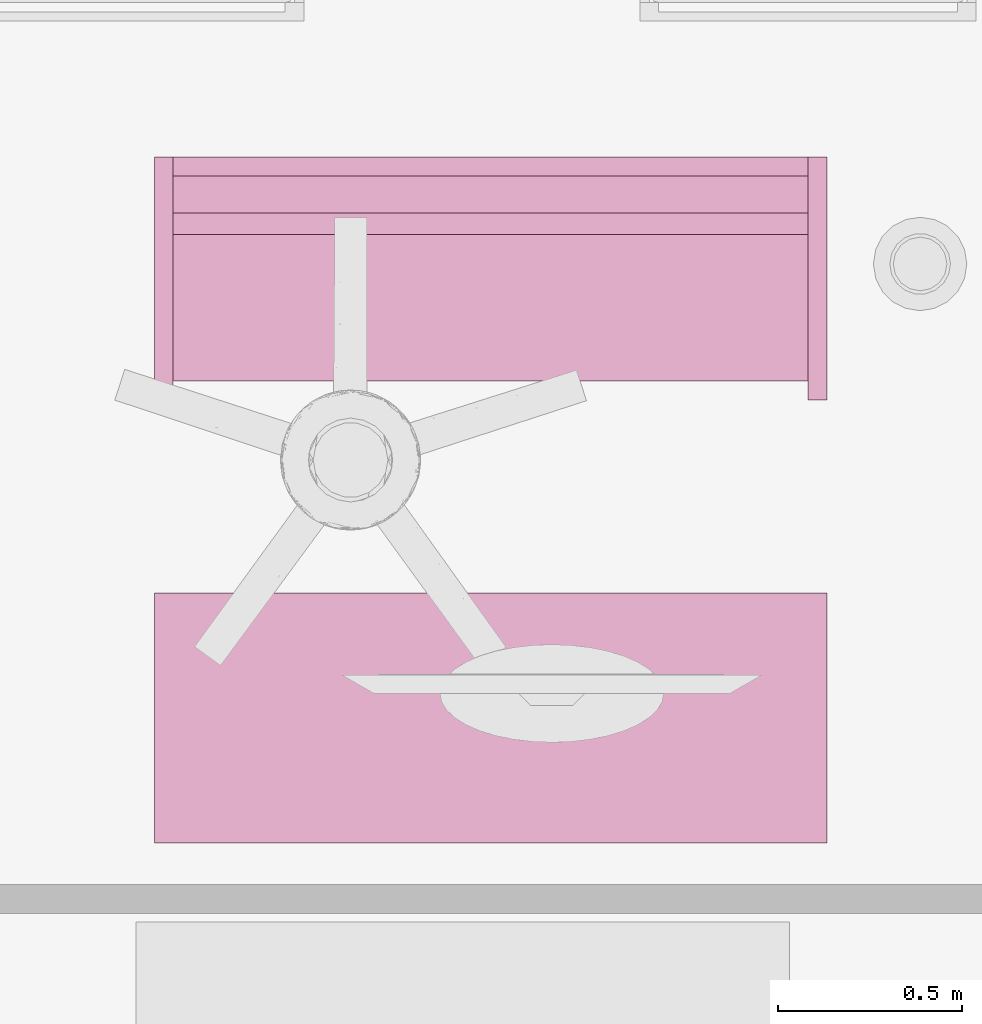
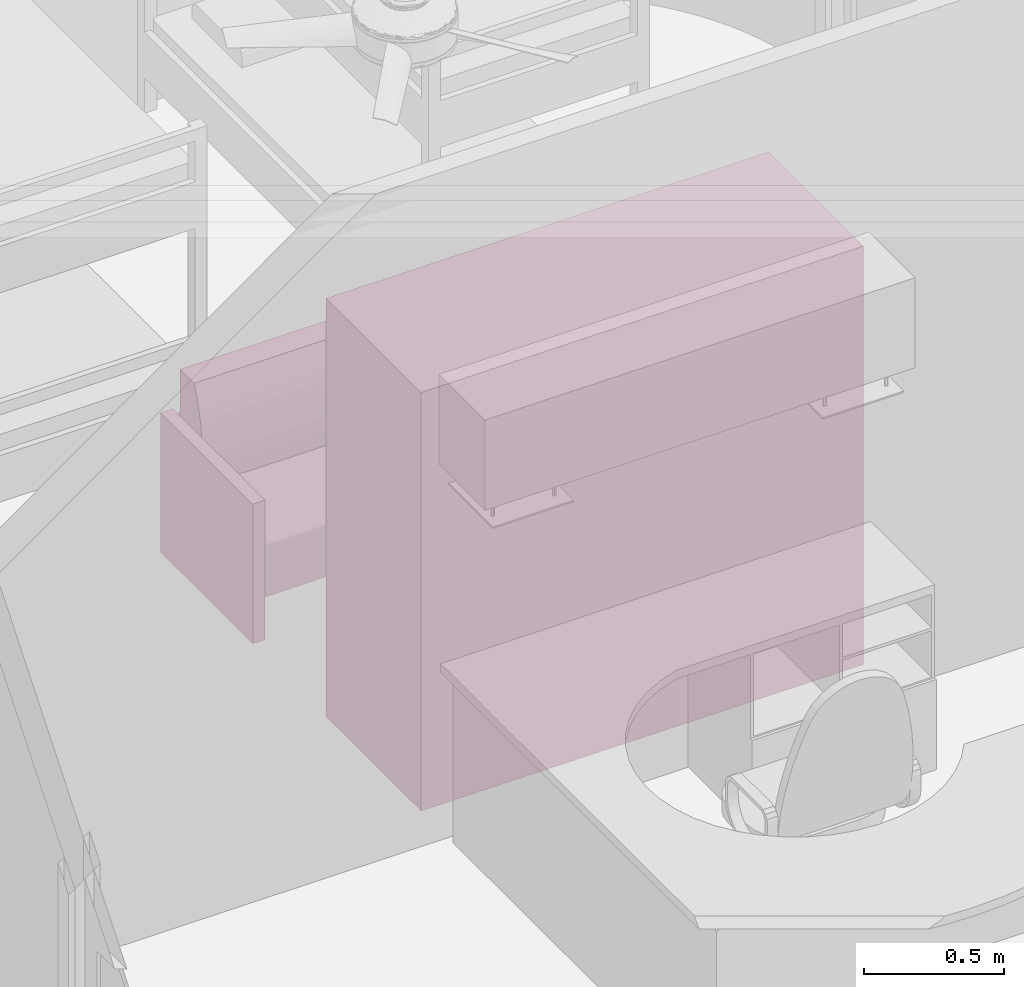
# One storey, part 25 of 28: 2 furnishings.
"""IFC2X3 building model written with IfcOpenShell, lengths in feet."""

import ifcopenshell
import ifcopenshell.guid

model = None  # the IFC model being written
_history = None  # IfcOwnerHistory: only IFC2X3 demands one
_inside = {}  # id of a spatial element -> (the spatial element, [elements in it])
_under = {}  # id of a project, library or spatial element -> (it, [spatial elements below it])
_declared = {}  # id of a project -> (the project, [libraries it declares])
_typed = {}  # id of a type object -> (the type object, [elements of that type])
_made_of = {}  # id of a material, layer set ... -> (it, [elements and type objects made of it])


def new_model(schema):
    """Start an empty IFC model of exactly this schema.

    Asked for "IFC4X3", IfcOpenShell would pick the latest addendum, in which some entities
    have other attributes; the version numbers below select the first issue.
    IFC2X3 requires an IfcOwnerHistory on every rooted entity: one is made here for all.
    """
    global model, _history
    if schema == "IFC4X3":
        model = ifcopenshell.file(schema_version=(4, 3, 0, 0))
    else:
        model = ifcopenshell.file(schema=schema)
    _inside.clear()
    _under.clear()
    _declared.clear()
    _typed.clear()
    _made_of.clear()
    _history = None
    if model.schema == "IFC2X3":
        org = make("IfcOrganization", Name="unknown")
        user = make(
            "IfcPersonAndOrganization",
            ThePerson=make("IfcPerson", FamilyName="unknown"),
            TheOrganization=org,
        )
        app = make(
            "IfcApplication",
            ApplicationDeveloper=org,
            Version="unknown",
            ApplicationFullName="unknown",
            ApplicationIdentifier="unknown",
        )
        _history = make(
            "IfcOwnerHistory",
            OwningUser=user,
            OwningApplication=app,
            ChangeAction="ADDED",
            CreationDate=0,
        )
    return model


def make(cls, **values):
    """One entity of the class cls with the attributes given. An attribute that is None is left unset."""
    return model.create_entity(
        cls, **{name: value for name, value in values.items() if value is not None}
    )


def entity(cls, *values):
    """Any entity or typed value of the class cls, its attributes in the order of the schema. None: left unset."""
    e = model.create_entity(cls)
    for i, value in enumerate(values):
        if value is not None:
            e[i] = value
    return e


def rooted(cls, **values):
    """An entity with a GlobalId (a new one), such as an element, a storey or a relation."""
    return make(cls, GlobalId=ifcopenshell.guid.new(), OwnerHistory=_history, **values)


def si_unit(unit_type, name, prefix=None):
    """IfcSIUnit, for example si_unit("LENGTHUNIT", "METRE", prefix="MILLI")."""
    return make("IfcSIUnit", UnitType=unit_type, Prefix=prefix, Name=name)


def converted_unit(unit_type, name, factor, base, dimensions=None, offset=None):
    """IfcConversionBasedUnit, such as the inch: factor (a typed value) times the base unit."""
    return make(
        "IfcConversionBasedUnit"
        if offset is None
        else "IfcConversionBasedUnitWithOffset",
        ConversionOffset=offset,
        Dimensions=None
        if dimensions is None
        else entity("IfcDimensionalExponents", *dimensions),
        UnitType=unit_type,
        Name=name,
        ConversionFactor=make(
            "IfcMeasureWithUnit", ValueComponent=factor, UnitComponent=base
        ),
    )


def derived_unit(unit_type, elements):
    """IfcDerivedUnit: a product of units, each with its exponent."""
    return make(
        "IfcDerivedUnit",
        Elements=[
            make("IfcDerivedUnitElement", Unit=unit, Exponent=power)
            for unit, power in elements
        ],
        UnitType=unit_type,
    )


def assignment(units):
    """IfcUnitAssignment: the units of a project."""
    return None if units is None else make("IfcUnitAssignment", Units=units)


def point(xyz):
    """IfcCartesianPoint."""
    return None if xyz is None else make("IfcCartesianPoint", Coordinates=xyz)


def direction(xyz):
    """IfcDirection."""
    return None if xyz is None else make("IfcDirection", DirectionRatios=xyz)


def frame(location, z_axis=None, x_axis=None):
    """IfcAxis2Placement3D, a coordinate frame: its origin and axes. An axis left out is left unset."""
    return make(
        "IfcAxis2Placement3D",
        Location=point(location),
        Axis=direction(z_axis),
        RefDirection=direction(x_axis),
    )


def frame_2d(location, x_axis=None):
    """IfcAxis2Placement2D, a coordinate frame in the plane: its origin and x axis."""
    return make(
        "IfcAxis2Placement2D", Location=point(location), RefDirection=direction(x_axis)
    )


def origin():
    """The frame at (0, 0, 0) with its axes left unset."""
    return frame((0.0, 0.0, 0.0))


def origin_2d_with_axis():
    """The frame at (0, 0) in the plane with the x axis (1, 0) written out."""
    return frame_2d((0.0, 0.0), x_axis=(1.0, 0.0))


def place(relative_to, where):
    """IfcLocalPlacement: puts the frame where relative to a parent placement (None: the world)."""
    return make(
        "IfcLocalPlacement", PlacementRelTo=relative_to, RelativePlacement=where
    )


def context(
    kind, dimensions, precision=None, world=None, true_north=None, identifier=None
):
    """IfcGeometricRepresentationContext, for example the 3D "Model" context."""
    return make(
        "IfcGeometricRepresentationContext",
        ContextIdentifier=identifier,
        ContextType=kind,
        CoordinateSpaceDimension=dimensions,
        Precision=precision,
        WorldCoordinateSystem=world,
        TrueNorth=true_north,
    )


def subcontext(parent, identifier, kind, view, scale=None):
    """IfcGeometricRepresentationSubContext, for example "Body" below "Model"."""
    return make(
        "IfcGeometricRepresentationSubContext",
        ContextIdentifier=identifier,
        ContextType=kind,
        ParentContext=parent,
        TargetScale=scale,
        TargetView=view,
    )


def project(units=None, contexts=None):
    """IfcProject with its units and contexts."""
    return rooted(
        "IfcProject",
        Name="project",
        RepresentationContexts=contexts,
        UnitsInContext=assignment(units),
    )


def spatial(cls, under=None, at=None, **own):
    """A site, building, storey or space (cls), placed at a placement, below another one or the project."""
    s = rooted(cls, ObjectPlacement=at, **own)
    if under is not None:
        _under.setdefault(under.id(), (under, []))[1].append(s)
    return s


def polyline(points):
    """IfcPolyline through the points."""
    return make("IfcPolyline", Points=[point(p) for p in points])


def circle_curve(where, radius):
    """IfcCircle in the frame where."""
    return make("IfcCircle", Position=where, Radius=radius)


def parameter(value):
    """IfcParameterValue: where a trimmed curve begins or ends, as a parameter of its basis curve."""
    return model.create_entity("IfcParameterValue", value)


def trimmed(basis, trim1, trim2, sense, master):
    """IfcTrimmedCurve: the piece of a basis curve between two trims."""
    return make(
        "IfcTrimmedCurve",
        BasisCurve=basis,
        Trim1=trim1,
        Trim2=trim2,
        SenseAgreement=sense,
        MasterRepresentation=master,
    )


def segment(curve, same_sense, transition):
    """IfcCompositeCurveSegment."""
    return make(
        "IfcCompositeCurveSegment",
        Transition=transition,
        SameSense=same_sense,
        ParentCurve=curve,
    )


def composite_curve(segments, self_intersect=None):
    """IfcCompositeCurve: segments joined end to end."""
    return make("IfcCompositeCurve", Segments=segments, SelfIntersect=self_intersect)


def profile(cls, at=None, kind="AREA", **sizes):
    """A parametric profile (cls). Its sizes go by their IFC names, for example OverallWidth=200.0."""
    return make(cls, ProfileType=kind, Position=at, **sizes)


def rectangle(**sizes):
    """IfcRectangleProfileDef."""
    return profile("IfcRectangleProfileDef", **sizes)


def outline(outer, holes=None, kind="AREA"):
    """IfcArbitraryClosedProfileDef: a profile drawn as a closed curve; with holes, ...WithVoids."""
    if holes is None:
        return make("IfcArbitraryClosedProfileDef", ProfileType=kind, OuterCurve=outer)
    return make(
        "IfcArbitraryProfileDefWithVoids",
        ProfileType=kind,
        OuterCurve=outer,
        InnerCurves=holes,
    )


def extrude(swept, where, along, depth):
    """IfcExtrudedAreaSolid: the profile swept, set in the frame where, extruded along a direction by depth."""
    return make(
        "IfcExtrudedAreaSolid",
        SweptArea=swept,
        Position=where,
        ExtrudedDirection=direction(along),
        Depth=depth,
    )


def faces_of(points, faces, orient=None, outer=None):
    """IfcFace entities. A face is a list of loops; a loop is a list of indices into points, from 0.

    orient and outer hold one flag for each loop. By default every Orientation is true, the
    first loop of a face is its IfcFaceOuterBound and the others are IfcFaceBound.
    """
    made = []
    for i, loops in enumerate(faces):
        bounds = []
        for j, loop in enumerate(loops):
            is_outer = j == 0 if outer is None else outer[i][j]
            bounds.append(
                make(
                    "IfcFaceOuterBound" if is_outer else "IfcFaceBound",
                    Bound=make("IfcPolyLoop", Polygon=[points[k] for k in loop]),
                    Orientation=True if orient is None else orient[i][j],
                )
            )
        made.append(make("IfcFace", Bounds=bounds))
    return made


def faceted_brep(points, faces, orient=None, outer=None, voids=None):
    """IfcFacetedBrep: a solid bounded by flat faces; with voids (closed shells), ...WithVoids."""
    shared = [point(p) for p in points]
    hull = make("IfcClosedShell", CfsFaces=faces_of(shared, faces, orient, outer))
    if voids is None:
        return make("IfcFacetedBrep", Outer=hull)
    return make(
        "IfcFacetedBrepWithVoids",
        Outer=hull,
        Voids=[
            make(cls, CfsFaces=faces_of(shared, fs, o, b)) for cls, fs, o, b in voids
        ],
    )


def shape(context_of_items, identifier, shape_type, items):
    """IfcShapeRepresentation: the items that make up one representation, for example the "Body"."""
    return make(
        "IfcShapeRepresentation",
        ContextOfItems=context_of_items,
        RepresentationIdentifier=identifier,
        RepresentationType=shape_type,
        Items=items,
    )


def source(mapping_origin, context_of_items, identifier, shape_type, items):
    """IfcRepresentationMap: a shape defined once, which mapped items show again and again."""
    return make(
        "IfcRepresentationMap",
        MappingOrigin=mapping_origin,
        MappedRepresentation=shape(context_of_items, identifier, shape_type, items),
    )


def transform(
    local_origin,
    x_axis=None,
    y_axis=None,
    z_axis=None,
    scale=None,
    scale2=None,
    scale3=None,
    uniform=True,
):
    """IfcCartesianTransformationOperator3D, or its non-uniform kind. x_axis, y_axis, z_axis: its Axis1, 2, 3."""
    if uniform:
        return make(
            "IfcCartesianTransformationOperator3D",
            Axis1=direction(x_axis),
            Axis2=direction(y_axis),
            LocalOrigin=point(local_origin),
            Scale=scale,
            Axis3=direction(z_axis),
        )
    return make(
        "IfcCartesianTransformationOperator3DnonUniform",
        Axis1=direction(x_axis),
        Axis2=direction(y_axis),
        LocalOrigin=point(local_origin),
        Scale=scale,
        Axis3=direction(z_axis),
        Scale2=scale2,
        Scale3=scale3,
    )


def mapped(mapping_source, mapping_target):
    """IfcMappedItem: shows the shape of a source again, moved by a transform."""
    return make(
        "IfcMappedItem", MappingSource=mapping_source, MappingTarget=mapping_target
    )


def material(Name=None, Category=None):
    """IfcMaterial."""
    return make("IfcMaterial", Name=Name, Category=Category)


def material_list(materials):
    """IfcMaterialList."""
    return make("IfcMaterialList", Materials=materials)


def made_of(thing, what):
    """Note that an element or type object is made of a material, layer set ...; save() writes the relation."""
    if what is not None:
        _made_of.setdefault(what.id(), (what, []))[1].append(thing)
    return thing


def type_object(cls, material=None, **own):
    """A type object (cls), such as IfcWallType, which elements share."""
    return made_of(rooted(cls, **own), material)


def type_shapes(of_type, sources):
    """Give a type object the sources (RepresentationMaps) that its elements show as mapped items."""
    of_type.RepresentationMaps = sources


def element(
    cls,
    number,
    at=None,
    inside=None,
    cuts=None,
    type_object=None,
    material=None,
    context=None,
    identifier="Body",
    shape_type=None,
    held_by="IfcProductDefinitionShape",
    body=None,
    shapes=None,
    **own,
):
    """One element of the class cls, such as IfcWall. Its Tag is "e" and its number.

    at: its placement. inside: the storey or other place that contains it. cuts: it is an
    opening in that element (IfcRelVoidsElement). A single representation is given by context,
    identifier, shape_type and body (its items); several are given by shapes. held_by: the class
    of the entity that holds the representations. save() writes the other relations.
    """
    e = rooted(cls, Tag="e%d" % number, ObjectPlacement=at, **own)
    if body is not None:
        shapes = [shape(context, identifier, shape_type, body)]
    if shapes is not None:
        e.Representation = make(held_by, Representations=shapes)
    if inside is not None:
        _inside.setdefault(inside.id(), (inside, []))[1].append(e)
    if cuts is not None:
        rooted(
            "IfcRelVoidsElement", RelatingBuildingElement=cuts, RelatedOpeningElement=e
        )
    if type_object is not None:
        _typed.setdefault(type_object.id(), (type_object, []))[1].append(e)
    return made_of(e, material)


def aggregate(whole, parts):
    """IfcRelAggregates: a whole, such as a stair, and the parts it consists of."""
    return rooted("IfcRelAggregates", RelatingObject=whole, RelatedObjects=parts)


def save(model, path):
    """Write the relations noted so far, then the file.

    IfcRelAggregates (storeys below a building ...), IfcRelContainedInSpatialStructure (elements
    in a storey), IfcRelDefinesByType, IfcRelAssociatesMaterial and IfcRelDeclares: one each for
    every whole, place, type object, material and project.
    """
    for whole, parts in _under.values():
        aggregate(whole, parts)
    for where, things in _inside.values():
        rooted(
            "IfcRelContainedInSpatialStructure",
            RelatedElements=things,
            RelatingStructure=where,
        )
    for kind, things in _typed.values():
        rooted("IfcRelDefinesByType", RelatedObjects=things, RelatingType=kind)
    for what, things in _made_of.values():
        rooted("IfcRelAssociatesMaterial", RelatedObjects=things, RelatingMaterial=what)
    for by, libraries in _declared.values():
        rooted("IfcRelDeclares", RelatingContext=by, RelatedDefinitions=libraries)
    model.write(path)


model = new_model("IFC2X3")

# Units and contexts
model_context = context("Model", 3, precision=0.0001, world=origin(), true_north=direction((6.12303176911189e-17, 1.0)))
body_context = subcontext(model_context, "Body", "Model", "MODEL_VIEW")
ifc_project = project(units=[converted_unit("LENGTHUNIT", "FOOT", entity("IfcRatioMeasure", 0.3048), si_unit("LENGTHUNIT", "METRE"), dimensions=[1, 0, 0, 0, 0, 0, 0]), converted_unit("AREAUNIT", "SQUARE FOOT", entity("IfcRatioMeasure", 0.09290304), si_unit("AREAUNIT", "SQUARE_METRE"), dimensions=[2, 0, 0, 0, 0, 0, 0]), converted_unit("VOLUMEUNIT", "CUBIC FOOT", entity("IfcRatioMeasure", 0.028316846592), si_unit("VOLUMEUNIT", "CUBIC_METRE"), dimensions=[3, 0, 0, 0, 0, 0, 0]), converted_unit("PLANEANGLEUNIT", "DEGREE", entity("IfcRatioMeasure", 0.0174532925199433), si_unit("PLANEANGLEUNIT", "RADIAN"), dimensions=[0, 0, 0, 0, 0, 0, 0]), si_unit("MASSUNIT", "GRAM", prefix="KILO"), derived_unit("MASSDENSITYUNIT", [(si_unit("MASSUNIT", "GRAM", prefix="KILO"), 1), (si_unit("LENGTHUNIT", "METRE"), -3)]), si_unit("TIMEUNIT", "SECOND"), si_unit("FREQUENCYUNIT", "HERTZ"), si_unit("THERMODYNAMICTEMPERATUREUNIT", "DEGREE_CELSIUS"), derived_unit("THERMALTRANSMITTANCEUNIT", [(si_unit("MASSUNIT", "GRAM", prefix="KILO"), 1), (si_unit("THERMODYNAMICTEMPERATUREUNIT", "KELVIN"), -1), (si_unit("TIMEUNIT", "SECOND"), -3)]), derived_unit("VOLUMETRICFLOWRATEUNIT", [(si_unit("LENGTHUNIT", "METRE"), 3), (si_unit("TIMEUNIT", "SECOND"), -1)]), si_unit("ELECTRICCURRENTUNIT", "AMPERE"), si_unit("ELECTRICVOLTAGEUNIT", "VOLT"), si_unit("POWERUNIT", "WATT"), si_unit("FORCEUNIT", "NEWTON"), si_unit("ILLUMINANCEUNIT", "LUX"), si_unit("LUMINOUSFLUXUNIT", "LUMEN"), si_unit("LUMINOUSINTENSITYUNIT", "CANDELA"), derived_unit("USERDEFINED", [(si_unit("MASSUNIT", "GRAM", prefix="KILO"), -1), (si_unit("LENGTHUNIT", "METRE"), -2), (si_unit("TIMEUNIT", "SECOND"), 3), (si_unit("LUMINOUSFLUXUNIT", "LUMEN"), 1)]), derived_unit("LINEARVELOCITYUNIT", [(si_unit("LENGTHUNIT", "METRE"), 1), (si_unit("TIMEUNIT", "SECOND"), -1)]), si_unit("PRESSUREUNIT", "PASCAL"), derived_unit("USERDEFINED", [(si_unit("LENGTHUNIT", "METRE"), -2), (si_unit("MASSUNIT", "GRAM", prefix="KILO"), 1), (si_unit("TIMEUNIT", "SECOND"), -2)])], contexts=[model_context])

# Site, building, storey
site_placement = place(None, origin())
site = spatial("IfcSite", under=ifc_project, at=site_placement, Name="表面", CompositionType="ELEMENT")
building_placement = place(site_placement, origin())
building = spatial("IfcBuilding", under=site, at=building_placement, CompositionType="ELEMENT")
storey_placement = place(building_placement, frame((0.0, 0.0, 10.0)))
storey = spatial("IfcBuildingStorey", under=building, at=storey_placement, Name="Level 2", CompositionType="ELEMENT", Elevation=9.99999999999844)

# Furnishings
ifc_material_1 = material(Name="Metal - Chrome")
ifc_material_2 = material(Name="Glass - Clear, Grey")
ifc_material_list_1 = material_list([ifc_material_1, ifc_material_2])
ifc_material_list_2 = material_list([ifc_material_1, ifc_material_2])
furniture_type_1 = type_object("IfcFurnitureType", Name="72\" x 72\" x 24\"", material=ifc_material_list_2)
shared_shape_1 = source(origin(), body_context, "Body", "Brep", [
    faceted_brep([(6.0, 0.0, 0.0), (6.0, 0.0, 6.0), (0.0, 0.0, 6.0), (0.0, 0.0, 0.0), (1.49999999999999, 0.0, 5.83333333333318), (1.49999999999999, 0.0, 4.54166666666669), (0.166666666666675, 0.0, 4.54166666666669), (0.166666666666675, 0.0, 5.83333333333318), (1.5, 0.0, 0.25), (0.166666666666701, 0.0, 0.25), (0.166666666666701, 0.0, 1.45833333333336), (1.5, 0.0, 1.45833333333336), (5.83333333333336, 0.0, 4.54166666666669), (4.49999999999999, 0.0, 4.54166666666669), (4.49999999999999, 0.0, 5.83333333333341), (5.83333333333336, 0.0, 5.83333333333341), (1.66666666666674, 0.0, 2.41666666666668), (1.66666666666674, 0.0, 5.83333333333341), (4.33333333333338, 0.0, 5.83333333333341), (4.33333333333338, 0.0, 2.41666666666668), (4.3333333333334, 0.0, 0.250000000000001), (1.66666666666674, 0.0, 0.250000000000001), (1.66666666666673, 0.0, 1.25000000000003), (4.3333333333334, 0.0, 1.25000000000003), (5.83333333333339, 0.0, 0.250000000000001), (4.50000000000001, 0.0, 0.250000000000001), (4.50000000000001, 0.0, 1.45833333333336), (5.83333333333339, 0.0, 1.45833333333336), (0.166666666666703, 0.0, 1.54166666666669), (0.166666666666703, 0.0, 2.95833333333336), (1.49999999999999, 0.0, 2.95833333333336), (1.49999999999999, 0.0, 1.54166666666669), (1.49999999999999, 0.0, 4.45833333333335), (1.49999999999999, 0.0, 3.04166666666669), (0.166666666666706, 0.0, 3.04166666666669), (0.166666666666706, 0.0, 4.45833333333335), (4.49999999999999, 0.0, 4.45833333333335), (5.83333333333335, 0.0, 4.45833333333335), (5.83333333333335, 0.0, 3.04166666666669), (4.49999999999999, 0.0, 3.04166666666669), (4.50000000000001, 0.0, 2.95833333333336), (5.83333333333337, 0.0, 2.95833333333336), (5.83333333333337, 0.0, 1.54166666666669), (4.50000000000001, 0.0, 1.54166666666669), (4.33333333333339, 0.0, 1.33333333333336), (1.66666666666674, 0.0, 1.33333333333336), (1.66666666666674, 0.0, 2.33333333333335), (4.33333333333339, 0.0, 2.33333333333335), (6.0, 2.22916666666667, 0.0), (0.0, 2.22916666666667, 0.0), (0.0, 2.22916666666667, 6.0), (6.0, 2.22916666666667, 6.0), (1.49999999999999, 2.14583333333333, 5.83333333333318), (1.49999999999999, 2.14583333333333, 4.54166666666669), (0.166666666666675, 2.14583333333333, 4.54166666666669), (0.166666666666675, 2.14583333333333, 5.83333333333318), (1.5, 2.14583333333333, 0.25), (0.166666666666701, 2.14583333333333, 0.25), (0.166666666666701, 2.14583333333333, 1.45833333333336), (1.5, 2.14583333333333, 1.45833333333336), (5.83333333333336, 2.14583333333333, 4.54166666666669), (4.49999999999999, 2.14583333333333, 4.54166666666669), (4.49999999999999, 2.14583333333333, 5.83333333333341), (5.83333333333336, 2.14583333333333, 5.83333333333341), (1.66666666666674, 2.14583333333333, 2.41666666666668), (1.66666666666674, 2.14583333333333, 5.83333333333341), (4.33333333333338, 2.14583333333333, 5.83333333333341), (4.33333333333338, 2.14583333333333, 2.41666666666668), (4.3333333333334, 2.14583333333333, 0.250000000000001), (1.66666666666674, 2.14583333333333, 0.250000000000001), (1.66666666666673, 2.14583333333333, 1.25000000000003), (4.3333333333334, 2.14583333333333, 1.25000000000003), (5.83333333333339, 2.14583333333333, 0.250000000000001), (4.50000000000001, 2.14583333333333, 0.250000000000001), (4.50000000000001, 2.14583333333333, 1.45833333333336), (5.83333333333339, 2.14583333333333, 1.45833333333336), (0.166666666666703, 2.14583333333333, 1.54166666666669), (0.166666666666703, 2.14583333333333, 2.95833333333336), (1.49999999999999, 2.14583333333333, 2.95833333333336), (1.49999999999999, 2.14583333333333, 1.54166666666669), (1.49999999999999, 2.14583333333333, 4.45833333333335), (1.49999999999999, 2.14583333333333, 3.04166666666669), (0.166666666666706, 2.14583333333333, 3.04166666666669), (0.166666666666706, 2.14583333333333, 4.45833333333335), (4.49999999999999, 2.14583333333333, 4.45833333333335), (5.83333333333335, 2.14583333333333, 4.45833333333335), (5.83333333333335, 2.14583333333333, 3.04166666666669), (4.49999999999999, 2.14583333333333, 3.04166666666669), (4.50000000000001, 2.14583333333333, 2.95833333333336), (5.83333333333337, 2.14583333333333, 2.95833333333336), (5.83333333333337, 2.14583333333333, 1.54166666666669), (4.50000000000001, 2.14583333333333, 1.54166666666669), (4.33333333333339, 2.14583333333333, 1.33333333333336), (1.66666666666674, 2.14583333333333, 1.33333333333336), (1.66666666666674, 2.14583333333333, 2.33333333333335), (4.33333333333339, 2.14583333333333, 2.33333333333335)], [[[0, 1, 2, 3], [4, 5, 6, 7], [8, 9, 10, 11], [12, 13, 14, 15], [16, 17, 18, 19], [20, 21, 22, 23], [24, 25, 26, 27], [28, 29, 30, 31], [32, 33, 34, 35], [36, 37, 38, 39], [40, 41, 42, 43], [44, 45, 46, 47]], [[48, 49, 50, 51]], [[1, 0, 48, 51]], [[2, 1, 51, 50]], [[3, 2, 50, 49]], [[0, 3, 49, 48]], [[5, 4, 52, 53]], [[6, 5, 53, 54]], [[7, 6, 54, 55]], [[4, 7, 55, 52]], [[9, 8, 56, 57]], [[10, 9, 57, 58]], [[11, 10, 58, 59]], [[8, 11, 59, 56]], [[13, 12, 60, 61]], [[14, 13, 61, 62]], [[15, 14, 62, 63]], [[12, 15, 63, 60]], [[17, 16, 64, 65]], [[18, 17, 65, 66]], [[19, 18, 66, 67]], [[16, 19, 67, 64]], [[21, 20, 68, 69]], [[22, 21, 69, 70]], [[23, 22, 70, 71]], [[20, 23, 71, 68]], [[25, 24, 72, 73]], [[26, 25, 73, 74]], [[27, 26, 74, 75]], [[24, 27, 75, 72]], [[29, 28, 76, 77]], [[30, 29, 77, 78]], [[31, 30, 78, 79]], [[28, 31, 79, 76]], [[33, 32, 80, 81]], [[34, 33, 81, 82]], [[35, 34, 82, 83]], [[32, 35, 83, 80]], [[37, 36, 84, 85]], [[38, 37, 85, 86]], [[39, 38, 86, 87]], [[36, 39, 87, 84]], [[41, 40, 88, 89]], [[42, 41, 89, 90]], [[43, 42, 90, 91]], [[40, 43, 91, 88]], [[45, 44, 92, 93]], [[46, 45, 93, 94]], [[47, 46, 94, 95]], [[44, 47, 95, 92]], [[73, 72, 75, 74]], [[69, 68, 71, 70]], [[57, 56, 59, 58]], [[93, 92, 95, 94]], [[77, 76, 79, 78]], [[65, 64, 67, 66]], [[89, 88, 91, 90]], [[85, 84, 87, 86]], [[81, 80, 83, 82]], [[61, 60, 63, 62]], [[53, 52, 55, 54]]]),
    faceted_brep([(0.742187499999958, 0.229166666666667, 2.70833333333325), (0.721354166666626, 0.229166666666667, 2.71391560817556), (0.700520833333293, 0.229166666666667, 2.71949788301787), (0.685269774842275, 0.229166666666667, 2.73474894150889), (0.670018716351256, 0.229166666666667, 2.74999999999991), (0.663470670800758, 0.229166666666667, 2.77443763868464), (0.658854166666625, 0.229166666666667, 2.79166666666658), (0.658854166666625, 0.229166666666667, 3.20833333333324), (0.66443644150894, 0.229166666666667, 3.22916666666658), (0.670018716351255, 0.229166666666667, 3.24999999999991), (0.685269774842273, 0.229166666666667, 3.26525105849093), (0.700520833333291, 0.229166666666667, 3.28050211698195), (0.724958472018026, 0.229166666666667, 3.28705016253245), (0.742187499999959, 0.229166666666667, 3.29166666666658), (0.822916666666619, 0.229166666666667, 3.29166666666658), (0.822916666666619, 0.229166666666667, 2.70833333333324), (0.658854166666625, 0.21875, 3.20833333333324), (0.658854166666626, 0.21875, 2.79166666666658), (0.664436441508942, 0.21875, 2.77083333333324), (0.670018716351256, 0.21875, 2.74999999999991), (0.685269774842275, 0.21875, 2.73474894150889), (0.700520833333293, 0.21875, 2.71949788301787), (0.724958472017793, 0.21875, 2.71294983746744), (0.742187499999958, 0.21875, 2.70833333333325), (0.822916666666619, 0.21875, 2.70833333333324), (0.822916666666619, 0.21875, 3.29166666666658), (0.742187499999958, 0.21875, 3.29166666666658), (0.721354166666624, 0.21875, 3.28608439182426), (0.700520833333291, 0.21875, 3.28050211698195), (0.685269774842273, 0.21875, 3.26525105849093), (0.670018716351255, 0.21875, 3.24999999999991), (0.663470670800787, 0.21875, 3.22556236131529)], [[[0, 1, 2, 3, 4, 5, 6, 7, 8, 9, 10, 11, 12, 13, 14, 15]], [[16, 17, 18, 19, 20, 21, 22, 23, 24, 25, 26, 27, 28, 29, 30, 31]], [[14, 13, 26, 25]], [[15, 14, 25, 24]], [[0, 15, 24, 23]], [[1, 0, 23, 22, 21, 2]], [[3, 2, 21, 20, 19, 4]], [[5, 4, 19, 18, 17, 6]], [[7, 6, 17, 16]], [[8, 7, 16, 31, 30, 9]], [[10, 9, 30, 29, 28, 11]], [[12, 11, 28, 27, 26, 13]]]),
    faceted_brep([(0.92323279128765, 0.229166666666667, 2.70833333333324), (0.84374999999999, 0.229166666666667, 2.70833333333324), (0.84374999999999, 0.229166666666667, 3.29166666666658), (0.923232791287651, 0.229166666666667, 3.29166666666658), (0.940461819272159, 0.229166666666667, 3.28705016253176), (0.964899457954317, 0.229166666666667, 3.28050211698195), (0.980150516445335, 0.229166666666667, 3.26525105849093), (0.995401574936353, 0.229166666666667, 3.24999999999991), (1.00098384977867, 0.229166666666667, 3.22916666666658), (1.00656612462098, 0.229166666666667, 3.20833333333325), (1.00656612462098, 0.229166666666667, 2.79166666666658), (1.00194962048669, 0.229166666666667, 2.77443763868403), (0.995401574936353, 0.229166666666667, 2.74999999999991), (0.980150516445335, 0.229166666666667, 2.73474894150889), (0.964899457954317, 0.229166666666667, 2.71949788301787), (0.944066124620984, 0.229166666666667, 2.71391560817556), (0.92323279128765, 0.21875, 3.29166666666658), (0.84374999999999, 0.21875, 3.29166666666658), (0.84374999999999, 0.21875, 2.70833333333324), (0.92323279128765, 0.21875, 2.70833333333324), (0.940461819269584, 0.21875, 2.71294983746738), (0.964899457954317, 0.21875, 2.71949788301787), (0.980150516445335, 0.21875, 2.73474894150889), (0.995401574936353, 0.21875, 2.74999999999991), (1.00098384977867, 0.21875, 2.77083333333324), (1.00656612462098, 0.21875, 2.79166666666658), (1.00656612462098, 0.21875, 3.20833333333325), (1.00194962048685, 0.21875, 3.22556236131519), (0.995401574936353, 0.21875, 3.24999999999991), (0.980150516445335, 0.21875, 3.26525105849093), (0.964899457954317, 0.21875, 3.28050211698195), (0.944066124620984, 0.21875, 3.28608439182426)], [[[0, 1, 2, 3, 4, 5, 6, 7, 8, 9, 10, 11, 12, 13, 14, 15]], [[16, 17, 18, 19, 20, 21, 22, 23, 24, 25, 26, 27, 28, 29, 30, 31]], [[5, 4, 3, 16, 31, 30]], [[7, 6, 5, 30, 29, 28]], [[28, 27, 26, 9, 8, 7]], [[10, 9, 26, 25]], [[12, 11, 10, 25, 24, 23]], [[14, 13, 12, 23, 22, 21]], [[21, 20, 19, 0, 15, 14]], [[1, 0, 19, 18]], [[2, 1, 18, 17]], [[3, 2, 17, 16]]]),
    faceted_brep([(4.99805037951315, 0.229166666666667, 2.7744376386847), (4.99343387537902, 0.229166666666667, 2.79166666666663), (4.99343387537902, 0.229166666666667, 3.20833333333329), (4.99901615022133, 0.229166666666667, 3.22916666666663), (5.00459842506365, 0.229166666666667, 3.24999999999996), (5.01984948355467, 0.229166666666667, 3.26525105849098), (5.03510054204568, 0.229166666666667, 3.280502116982), (5.05953818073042, 0.229166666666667, 3.2870501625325), (5.07676720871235, 0.229166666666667, 3.29166666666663), (5.15625000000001, 0.229166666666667, 3.29166666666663), (5.15625000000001, 0.229166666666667, 2.7083333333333), (5.07676720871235, 0.229166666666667, 2.70833333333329), (5.05593387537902, 0.229166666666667, 2.71391560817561), (5.03510054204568, 0.229166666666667, 2.71949788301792), (5.01984948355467, 0.229166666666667, 2.73474894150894), (5.00459842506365, 0.229166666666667, 2.74999999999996), (4.99343387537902, 0.21875, 3.2083333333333), (4.99343387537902, 0.21875, 2.79166666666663), (4.99901615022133, 0.21875, 2.77083333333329), (5.00459842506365, 0.21875, 2.74999999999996), (5.01984948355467, 0.21875, 2.73474894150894), (5.03510054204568, 0.21875, 2.71949788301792), (5.05953818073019, 0.21875, 2.71294983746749), (5.07676720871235, 0.21875, 2.70833333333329), (5.15625000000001, 0.21875, 2.7083333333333), (5.15625000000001, 0.21875, 3.29166666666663), (5.07676720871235, 0.21875, 3.29166666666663), (5.05593387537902, 0.21875, 3.28608439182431), (5.03510054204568, 0.21875, 3.280502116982), (5.01984948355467, 0.21875, 3.26525105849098), (5.00459842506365, 0.21875, 3.24999999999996), (4.99805037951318, 0.21875, 3.22556236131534)], [[[0, 1, 2, 3, 4, 5, 6, 7, 8, 9, 10, 11, 12, 13, 14, 15]], [[16, 17, 18, 19, 20, 21, 22, 23, 24, 25, 26, 27, 28, 29, 30, 31]], [[9, 8, 26, 25]], [[10, 9, 25, 24]], [[11, 10, 24, 23]], [[12, 11, 23, 22, 21, 13]], [[14, 13, 21, 20, 19, 15]], [[0, 15, 19, 18, 17, 1]], [[2, 1, 17, 16]], [[3, 2, 16, 31, 30, 4]], [[5, 4, 30, 29, 28, 6]], [[7, 6, 28, 27, 26, 8]]]),
    faceted_brep([(5.25781249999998, 0.229166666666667, 2.7083333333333), (5.17708333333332, 0.229166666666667, 2.7083333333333), (5.17708333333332, 0.229166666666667, 3.29166666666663), (5.25781249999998, 0.229166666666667, 3.29166666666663), (5.27864583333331, 0.229166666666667, 3.28608439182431), (5.29947916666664, 0.229166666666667, 3.280502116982), (5.31473022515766, 0.229166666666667, 3.26525105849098), (5.32998128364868, 0.229166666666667, 3.24999999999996), (5.33652932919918, 0.229166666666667, 3.22556236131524), (5.34114583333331, 0.229166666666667, 3.2083333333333), (5.34114583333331, 0.229166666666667, 2.79166666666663), (5.335563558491, 0.229166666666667, 2.7708333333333), (5.32998128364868, 0.229166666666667, 2.74999999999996), (5.31473022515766, 0.229166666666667, 2.73474894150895), (5.29947916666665, 0.229166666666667, 2.71949788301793), (5.27504152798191, 0.229166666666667, 2.71294983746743), (5.25781249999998, 0.21875, 3.29166666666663), (5.17708333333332, 0.21875, 3.29166666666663), (5.17708333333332, 0.21875, 2.7083333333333), (5.25781249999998, 0.21875, 2.7083333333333), (5.27864583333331, 0.21875, 2.71391560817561), (5.29947916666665, 0.21875, 2.71949788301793), (5.31473022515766, 0.21875, 2.73474894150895), (5.32998128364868, 0.21875, 2.74999999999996), (5.33652932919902, 0.21875, 2.77443763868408), (5.34114583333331, 0.21875, 2.79166666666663), (5.34114583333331, 0.21875, 3.2083333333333), (5.335563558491, 0.21875, 3.22916666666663), (5.32998128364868, 0.21875, 3.24999999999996), (5.31473022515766, 0.21875, 3.26525105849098), (5.29947916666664, 0.21875, 3.280502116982), (5.27504152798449, 0.21875, 3.28705016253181)], [[[0, 1, 2, 3, 4, 5, 6, 7, 8, 9, 10, 11, 12, 13, 14, 15]], [[16, 17, 18, 19, 20, 21, 22, 23, 24, 25, 26, 27, 28, 29, 30, 31]], [[4, 3, 16, 31, 30, 5]], [[6, 5, 30, 29, 28, 7]], [[8, 7, 28, 27, 26, 9]], [[10, 9, 26, 25]], [[11, 10, 25, 24, 23, 12]], [[13, 12, 23, 22, 21, 14]], [[15, 14, 21, 20, 19, 0]], [[1, 0, 19, 18]], [[2, 1, 18, 17]], [[3, 2, 17, 16]]]),
    faceted_brep([(5.17708333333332, 0.229166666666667, 5.89583333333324), (5.89583333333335, 0.229166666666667, 5.89583333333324), (5.89583333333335, 0.229166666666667, 0.166666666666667), (5.17708333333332, 0.229166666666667, 0.166666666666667), (5.17708333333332, 0.0, 5.89583333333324), (5.89583333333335, 0.0, 5.89583333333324), (5.89583333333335, 0.0, 0.166666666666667), (5.17708333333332, 0.0, 0.166666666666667)], [[[0, 1, 2, 3]], [[1, 0, 4, 5]], [[2, 1, 5, 6]], [[3, 2, 6, 7]], [[0, 3, 7, 4]], [[4, 7, 6, 5]]]),
    faceted_brep([(5.15625000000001, 0.0, 0.166666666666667), (5.15625000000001, 0.0, 5.89583333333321), (4.43750000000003, 0.0, 5.89583333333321), (4.43750000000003, 0.0, 0.166666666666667), (4.43750000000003, 0.229166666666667, 0.166666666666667), (5.15625000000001, 0.229166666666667, 0.166666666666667), (4.43750000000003, 0.229166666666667, 5.89583333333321), (5.15625000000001, 0.229166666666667, 5.89583333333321)], [[[0, 1, 2, 3]], [[4, 5, 0, 3]], [[6, 4, 3, 2]], [[7, 6, 2, 1]], [[5, 7, 1, 0]], [[5, 4, 6, 7]]]),
    faceted_brep([(0.822916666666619, 0.229166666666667, 0.166666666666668), (0.822916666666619, 0.229166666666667, 5.89583333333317), (0.822916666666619, 0.0, 5.89583333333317), (0.822916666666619, 0.0, 0.166666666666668), (0.104166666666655, 0.229166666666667, 0.166666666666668), (0.104166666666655, 0.0, 0.166666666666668), (0.104166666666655, 0.229166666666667, 5.89583333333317), (0.104166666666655, 0.0, 5.89583333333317)], [[[0, 1, 2, 3]], [[4, 0, 3, 5]], [[6, 4, 5, 7]], [[1, 6, 7, 2]], [[2, 7, 5, 3]], [[1, 0, 4, 6]]]),
    faceted_brep([(0.84374999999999, 0.229166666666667, 5.89583333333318), (0.84374999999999, 0.229166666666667, 0.166666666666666), (0.84374999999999, 0.0, 0.166666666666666), (0.84374999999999, 0.0, 5.89583333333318), (1.56249999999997, 0.229166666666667, 5.89583333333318), (1.56249999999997, 0.0, 5.89583333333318), (1.56249999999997, 0.229166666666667, 0.166666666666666), (1.56249999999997, 0.0, 0.166666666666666)], [[[0, 1, 2, 3]], [[4, 0, 3, 5]], [[6, 4, 5, 7]], [[1, 6, 7, 2]], [[2, 7, 5, 3]], [[1, 0, 4, 6]]]),
])
type_shapes(furniture_type_1, [shared_shape_1])
furnishing_1_placement = place(storey_placement, frame((29.9650869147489, 4.49489369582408, 0.343749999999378), z_axis=(0.0, 0.0, 1.0), x_axis=(-1.0, 0.0, 0.0)))
element("IfcFurnishingElement", 1, at=furnishing_1_placement, inside=storey, type_object=furniture_type_1, material=ifc_material_list_1, Name="Entertainment Center:72\" x 72\" x 24\"", ObjectType="72\" x 72\" x 24\"", context=body_context, shape_type="MappedRepresentation", body=[
    mapped(shared_shape_1, transform((0.0, 0.0, 0.0), scale=1.0)),
])
ifc_material_3 = material(Name="Wood - Cherry")
ifc_material_4 = material(Name="Textile - Linen, Smooth")
ifc_material_list_3 = material_list([ifc_material_3, ifc_material_4])
ifc_material_list_4 = material_list([ifc_material_3, ifc_material_4])
furniture_type_2 = type_object("IfcFurnitureType", Name="72\"", material=ifc_material_list_4)
shared_shape_2 = source(origin(), body_context, "Body", "SweptSolid", [
    extrude(rectangle(XDim=5.66666666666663, YDim=0.166666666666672, at=frame_2d((0.0, 1.11022302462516e-16), x_axis=(1.0, 0.0))), frame((0.230874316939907, 1.47950819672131, 1.5)), (0.0, 0.0, 1.0), 0.416666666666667),
    extrude(rectangle(XDim=5.66666666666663, YDim=0.166666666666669, at=frame_2d((0.0, -1.11022302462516e-16), x_axis=(1.0, 0.0))), frame((0.230874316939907, 1.47950819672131, 0.875)), (0.0, 0.0, 1.0), 0.416666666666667),
    extrude(rectangle(XDim=5.66666666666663, YDim=0.166666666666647, at=frame_2d((0.0, 1.11022302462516e-16), x_axis=(1.0, 0.0))), frame((0.230874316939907, 1.47950819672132, 0.25)), (0.0, 0.0, 1.0), 0.416666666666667),
    extrude(outline(composite_curve([segment(polyline([(-0.423945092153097, 0.161101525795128), (0.906641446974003, 0.161101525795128)]), True, "CONTINUOUS"), segment(trimmed(circle_curve(frame_2d((0.906641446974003, 0.202768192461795), x_axis=(1.0, 0.0)), 0.0416666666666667), [parameter(270.0)], [parameter(5.0)], True, "PARAMETER"), True, "CONTINUOUS"), segment(polyline([(0.948149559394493, 0.206399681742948), (0.879482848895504, 0.99126377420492)]), True, "CONTINUOUS"), segment(polyline([(0.879482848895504, 0.99126377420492), (-0.881220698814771, 0.99126377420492)]), True, "CONTINUOUS"), segment(polyline([(-0.881220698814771, 0.99126377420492), (-0.881220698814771, -1.25556514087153)]), True, "CONTINUOUS"), segment(polyline([(-0.881220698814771, -1.25556514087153), (-0.547887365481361, -1.25556514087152)]), True, "CONTINUOUS"), segment(trimmed(circle_curve(frame_2d((-2.52480042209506, -0.368852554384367), x_axis=(1.0, 0.0)), 2.16666666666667), [parameter(335.842147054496)], [parameter(14.1578529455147)], True, "PARAMETER"), True, "CONTINUOUS")], self_intersect=False)), frame((-2.60245901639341, 0.514954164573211, 1.41110152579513), z_axis=(1.0, 0.0, 0.0), x_axis=(0.0, -1.0, 0.0)), (0.0, 0.0, 1.0), 5.66666666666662),
    extrude(rectangle(XDim=2.16666666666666, YDim=0.166666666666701, at=frame_2d((0.0, 2.22044604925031e-16), x_axis=(1.0, 0.0))), frame((-2.68579234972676, 0.479508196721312, 0.0), z_axis=(0.0, 0.0, 1.0), x_axis=(0.0, -1.0, 0.0)), (0.0, 0.0, 1.0), 2.0),
    extrude(rectangle(XDim=0.166666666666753, YDim=2.16666666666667, at=origin_2d_with_axis()), frame((3.14754098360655, 0.479508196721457, 0.0), z_axis=(0.0, 0.0, 1.0), x_axis=(-1.0, 0.0, 0.0)), (0.0, 0.0, 1.0), 2.0),
])
type_shapes(furniture_type_2, [shared_shape_2])
furnishing_2_placement = place(storey_placement, frame((26.734212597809, 6.82267716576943, 0.343749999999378)))
element("IfcFurnishingElement", 2, at=furnishing_2_placement, inside=storey, type_object=furniture_type_2, material=ifc_material_list_3, Name="Sofa:72\"", ObjectType="72\"", context=body_context, shape_type="MappedRepresentation", body=[
    mapped(shared_shape_2, transform((0.0, 0.0, 0.0), scale=1.0)),
])

save(model, "model.ifc")
